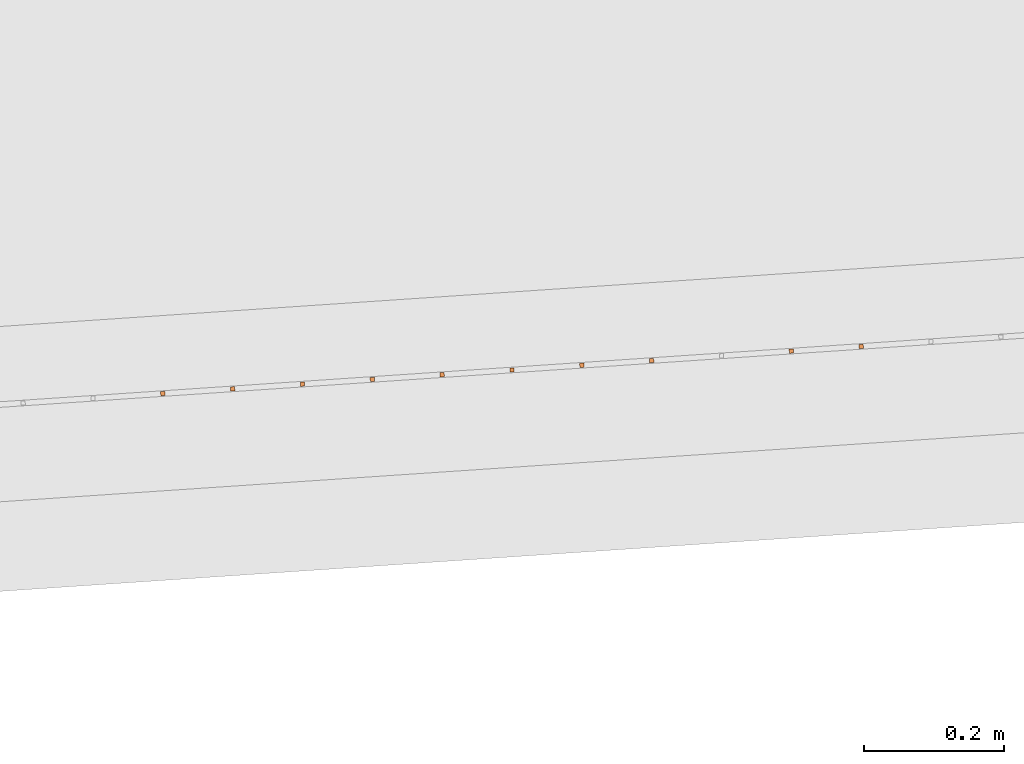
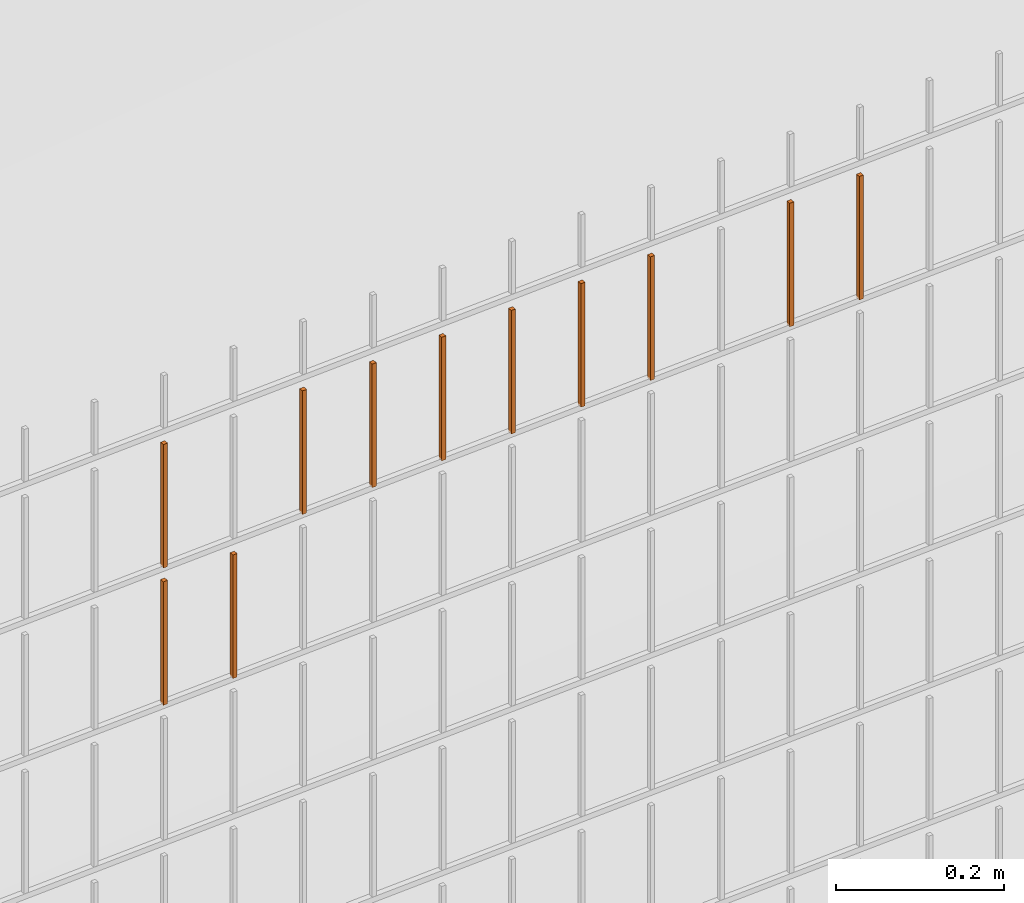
# One storey, part 192 of 1809: 11 proxies, 1 element without a shape of its own.
"""IFC2X3 building model written with IfcOpenShell, lengths in millimetres."""

from ifc_helpers import new_model, entity, si_unit, converted_unit, derived_unit, money_unit, direction, frame, origin_with_axes, place, context, subcontext, project, spatial, faceted_brep, source, transform, mapped, material, type_object, element, aggregate, save


model = new_model("IFC2X3")

# Units and contexts
model_context = context("Model", 3, precision=0.01, world=origin_with_axes(), true_north=direction((0.0, 1.0)))
body_context = subcontext(model_context, "Body", "Model", "MODEL_VIEW")
ifc_project = project(units=[si_unit("LENGTHUNIT", "METRE", prefix="MILLI"), si_unit("AREAUNIT", "SQUARE_METRE"), si_unit("VOLUMEUNIT", "CUBIC_METRE"), converted_unit("PLANEANGLEUNIT", "DEGREE", entity("IfcPlaneAngleMeasure", 0.0174532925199), si_unit("PLANEANGLEUNIT", "RADIAN"), dimensions=[0, 0, 0, 0, 0, 0, 0]), si_unit("SOLIDANGLEUNIT", "STERADIAN"), money_unit("EUR"), converted_unit("TIMEUNIT", "Year", entity("IfcTimeMeasure", 31556926.0), si_unit("TIMEUNIT", "SECOND"), dimensions=[0, 0, 1, 0, 0, 0, 0]), si_unit("MASSUNIT", "GRAM", prefix="KILO"), si_unit("THERMODYNAMICTEMPERATUREUNIT", "DEGREE_CELSIUS"), si_unit("LUMINOUSINTENSITYUNIT", "LUMEN"), si_unit("ENERGYUNIT", "JOULE", prefix="MEGA"), derived_unit("THERMALCONDUCTANCEUNIT", [(si_unit("POWERUNIT", "WATT"), 1), (si_unit("LENGTHUNIT", "METRE"), -1), (si_unit("THERMODYNAMICTEMPERATUREUNIT", "KELVIN"), -1)]), derived_unit("SPECIFICHEATCAPACITYUNIT", [(si_unit("ENERGYUNIT", "JOULE"), 1), (si_unit("MASSUNIT", "GRAM", prefix="KILO"), -1), (si_unit("THERMODYNAMICTEMPERATUREUNIT", "KELVIN"), -1)]), derived_unit("MASSDENSITYUNIT", [(si_unit("MASSUNIT", "GRAM", prefix="KILO"), 1), (si_unit("VOLUMEUNIT", "CUBIC_METRE"), -1)])], contexts=[model_context])

# Site, building, storey
site_placement = place(None, origin_with_axes())
site = spatial("IfcSite", under=ifc_project, at=site_placement, Name="Politse- ja Piirivalveameti ning Päästeameti ühishoone", CompositionType="ELEMENT")
building_placement = place(site_placement, origin_with_axes())
building = spatial("IfcBuilding", under=site, at=building_placement, Name="Politse- ja Piirivalveameti ning Päästeameti ühishoone", CompositionType="ELEMENT")
storey_placement = place(building_placement, origin_with_axes())
storey = spatial("IfcBuildingStorey", under=building, at=storey_placement, Name="Esimene korrus", CompositionType="ELEMENT", Elevation=0.0)

# Proxies
building_element_proxy_type_1 = type_object("IfcBuildingElementProxyType", Name="Railing Type", PredefinedType="NOTDEFINED")
proxy_1_placement = place(storey_placement, frame((89252.001212, -29183.4766571, 203.661247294), z_axis=(0.0, 0.0, 1.0), x_axis=(1.0, 0.0, 0.0)))
proxy_1 = element("IfcBuildingElementProxy", 1, at=proxy_1_placement, inside=storey, type_object=building_element_proxy_type_1, Name="PIIRDEAED")
ifc_material = material(Name="ET-03_Raud")
building_element_proxy_type_2 = type_object("IfcBuildingElementProxyType", Name="IfcBuildingElementProxy", PredefinedType="NOTDEFINED")
shared_shape_1 = source(origin_with_axes(), body_context, "Body", "Brep", [
    faceted_brep([(3.0, 3.0, -0.000752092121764), (-3.0, 3.0, -0.000752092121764), (-3.0, 3.0, 179.99926046), (3.0, 3.0, 179.99926046), (3.0, -3.0, 0.000752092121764), (-3.0, -3.0, 0.000752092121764), (-3.0, -3.0, 180.000764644), (3.0, -3.0, 180.000764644)], [[[0, 1, 2, 3]], [[0, 4, 5, 1]], [[1, 5, 6, 2]], [[3, 2, 6, 7]], [[4, 0, 3, 7]], [[5, 4, 7, 6]]]),
])
proxy_2_placement = place(proxy_1_placement, frame((-68570.4399222, -21929.4492028, 1810.00478532), z_axis=(0.0, 0.0, 1.0), x_axis=(1.0, 0.0, 0.0)))
proxy_2 = element("IfcBuildingElementProxy", 2, at=proxy_2_placement, type_object=building_element_proxy_type_2, material=ifc_material, Name="BALUSTER - 001", context=body_context, shape_type="MappedRepresentation", body=[
    mapped(shared_shape_1, transform((0.0, 0.0, 0.0), x_axis=(-0.0673926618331, 0.997726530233, 0.0), y_axis=(-0.997726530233, -0.0673926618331, 0.0), z_axis=(0.0, 0.0, 1.0))),
])
shared_shape_2 = source(origin_with_axes(), body_context, "Body", "Brep", [
    faceted_brep([(3.0, 3.0, -0.000752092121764), (-3.0, 3.0, -0.000752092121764), (-3.0, 3.0, 179.99926046), (3.0, 3.0, 179.99926046), (3.0, -3.0, 0.000752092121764), (-3.0, -3.0, 0.000752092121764), (-3.0, -3.0, 180.000764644), (3.0, -3.0, 180.000764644)], [[[0, 1, 2, 3]], [[0, 4, 5, 1]], [[1, 5, 6, 2]], [[3, 2, 6, 7]], [[4, 0, 3, 7]], [[5, 4, 7, 6]]]),
])
proxy_3_placement = place(proxy_1_placement, frame((-69169.0758403, -21969.8847999, 1809.85436689), z_axis=(0.0, 0.0, 1.0), x_axis=(1.0, 0.0, 0.0)))
proxy_3 = element("IfcBuildingElementProxy", 3, at=proxy_3_placement, type_object=building_element_proxy_type_2, material=ifc_material, Name="BALUSTER - 001", context=body_context, shape_type="MappedRepresentation", body=[
    mapped(shared_shape_2, transform((0.0, 0.0, 0.0), x_axis=(-0.0673926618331, 0.997726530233, 0.0), y_axis=(-0.997726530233, -0.0673926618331, 0.0), z_axis=(0.0, 0.0, 1.0))),
])
shared_shape_3 = source(origin_with_axes(), body_context, "Body", "Brep", [
    faceted_brep([(3.0, 3.0, -0.000752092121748), (-3.0, 3.0, -0.00075209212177), (-3.0, 3.0, 179.99926046), (3.0, 3.0, 179.99926046), (3.0, -3.0, 0.00075209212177), (-3.0, -3.0, 0.000752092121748), (-3.0, -3.0, 180.000764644), (3.0, -3.0, 180.000764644)], [[[0, 1, 2, 3]], [[0, 4, 5, 1]], [[1, 5, 6, 2]], [[3, 2, 6, 7]], [[4, 0, 3, 7]], [[5, 4, 7, 6]]]),
])
proxy_4_placement = place(proxy_1_placement, frame((-68969.5305343, -21956.4062676, 1809.90450637), z_axis=(0.0, 0.0, 1.0), x_axis=(1.0, 0.0, 0.0)))
proxy_4 = element("IfcBuildingElementProxy", 4, at=proxy_4_placement, type_object=building_element_proxy_type_2, material=ifc_material, Name="BALUSTER - 001", context=body_context, shape_type="MappedRepresentation", body=[
    mapped(shared_shape_3, transform((0.0, 0.0, 0.0), x_axis=(-0.0673926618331, 0.997726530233, 0.0), y_axis=(-0.997726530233, -0.0673926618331, 0.0), z_axis=(0.0, 0.0, 1.0))),
])
shared_shape_4 = source(origin_with_axes(), body_context, "Body", "Brep", [
    faceted_brep([(3.0, 3.0, -0.000752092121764), (-3.0, 3.0, -0.000752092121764), (-3.0, 3.0, 179.99926046), (3.0, 3.0, 179.99926046), (3.0, -3.0, 0.000752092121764), (-3.0, -3.0, 0.000752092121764), (-3.0, -3.0, 180.000764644), (3.0, -3.0, 180.000764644)], [[[0, 1, 2, 3]], [[0, 4, 5, 1]], [[1, 5, 6, 2]], [[3, 2, 6, 7]], [[4, 0, 3, 7]], [[5, 4, 7, 6]]]),
])
proxy_5_placement = place(proxy_1_placement, frame((-68769.9852282, -21942.9277352, 1809.95464584), z_axis=(0.0, 0.0, 1.0), x_axis=(1.0, 0.0, 0.0)))
proxy_5 = element("IfcBuildingElementProxy", 5, at=proxy_5_placement, type_object=building_element_proxy_type_2, material=ifc_material, Name="BALUSTER - 001", context=body_context, shape_type="MappedRepresentation", body=[
    mapped(shared_shape_4, transform((0.0, 0.0, 0.0), x_axis=(-0.0673926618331, 0.997726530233, 0.0), y_axis=(-0.997726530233, -0.0673926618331, 0.0), z_axis=(0.0, 0.0, 1.0))),
])
shared_shape_5 = source(origin_with_axes(), body_context, "Body", "Brep", [
    faceted_brep([(3.0, 3.0, -0.000752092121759), (-3.0, 3.0, -0.000752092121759), (-3.0, 3.0, 179.99926046), (3.0, 3.0, 179.99926046), (3.0, -3.0, 0.000752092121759), (-3.0, -3.0, 0.000752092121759), (-3.0, -3.0, 180.000764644), (3.0, -3.0, 180.000764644)], [[[0, 1, 2, 3]], [[0, 4, 5, 1]], [[1, 5, 6, 2]], [[3, 2, 6, 7]], [[4, 0, 3, 7]], [[5, 4, 7, 6]]]),
])
proxy_6_placement = place(proxy_1_placement, frame((-68271.1219631, -21909.2314043, 1810.07999453), z_axis=(0.0, 0.0, 1.0), x_axis=(1.0, 0.0, 0.0)))
proxy_6 = element("IfcBuildingElementProxy", 6, at=proxy_6_placement, type_object=building_element_proxy_type_2, material=ifc_material, Name="BALUSTER - 001", context=body_context, shape_type="MappedRepresentation", body=[
    mapped(shared_shape_5, transform((0.0, 0.0, 0.0), x_axis=(-0.0673926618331, 0.997726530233, 0.0), y_axis=(-0.997726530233, -0.0673926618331, 0.0), z_axis=(0.0, 0.0, 1.0))),
])
proxy_7_placement = place(proxy_1_placement, frame((-68869.7578813, -21949.6670014, 1809.92957611), z_axis=(0.0, 0.0, 1.0), x_axis=(1.0, 0.0, 0.0)))
proxy_7 = element("IfcBuildingElementProxy", 7, at=proxy_7_placement, type_object=building_element_proxy_type_2, material=ifc_material, Name="BALUSTER - 001", context=body_context, shape_type="MappedRepresentation", body=[
    mapped(shared_shape_5, transform((0.0, 0.0, 0.0), x_axis=(-0.0673926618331, 0.997726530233, 0.0), y_axis=(-0.997726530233, -0.0673926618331, 0.0), z_axis=(0.0, 0.0, 1.0))),
])
shared_shape_6 = source(origin_with_axes(), body_context, "Body", "Brep", [
    faceted_brep([(3.0, 3.0, -0.000752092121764), (-3.0, 3.0, -0.000752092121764), (-3.0, 3.0, 179.99926046), (3.0, 3.0, 179.99926046), (3.0, -3.0, 0.000752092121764), (-3.0, -3.0, 0.000752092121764), (-3.0, -3.0, 180.000764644), (3.0, -3.0, 180.000764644)], [[[0, 1, 2, 3]], [[0, 4, 5, 1]], [[1, 5, 6, 2]], [[3, 2, 6, 7]], [[4, 0, 3, 7]], [[5, 4, 7, 6]]]),
])
proxy_8_placement = place(proxy_1_placement, frame((-69169.0758403, -21969.8847999, 1609.85436689), z_axis=(0.0, 0.0, 1.0), x_axis=(1.0, 0.0, 0.0)))
proxy_8 = element("IfcBuildingElementProxy", 8, at=proxy_8_placement, type_object=building_element_proxy_type_2, material=ifc_material, Name="BALUSTER - 001", context=body_context, shape_type="MappedRepresentation", body=[
    mapped(shared_shape_6, transform((0.0, 0.0, 0.0), x_axis=(-0.0673926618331, 0.997726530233, 0.0), y_axis=(-0.997726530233, -0.0673926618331, 0.0), z_axis=(0.0, 0.0, 1.0))),
])
shared_shape_7 = source(origin_with_axes(), body_context, "Body", "Brep", [
    faceted_brep([(3.0, 3.0, -0.000752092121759), (-3.0, 3.0, -0.000752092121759), (-3.0, 3.0, 179.99926046), (3.0, 3.0, 179.99926046), (3.0, -3.0, 0.000752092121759), (-3.0, -3.0, 0.000752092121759), (-3.0, -3.0, 180.000764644), (3.0, -3.0, 180.000764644)], [[[0, 1, 2, 3]], [[0, 4, 5, 1]], [[1, 5, 6, 2]], [[3, 2, 6, 7]], [[4, 0, 3, 7]], [[5, 4, 7, 6]]]),
])
proxy_9_placement = place(proxy_1_placement, frame((-68470.6672692, -21922.7099367, 1810.02985506), z_axis=(0.0, 0.0, 1.0), x_axis=(1.0, 0.0, 0.0)))
proxy_9 = element("IfcBuildingElementProxy", 9, at=proxy_9_placement, type_object=building_element_proxy_type_2, material=ifc_material, Name="BALUSTER - 001", context=body_context, shape_type="MappedRepresentation", body=[
    mapped(shared_shape_7, transform((0.0, 0.0, 0.0), x_axis=(-0.0673926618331, 0.997726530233, 0.0), y_axis=(-0.997726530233, -0.0673926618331, 0.0), z_axis=(0.0, 0.0, 1.0))),
])
shared_shape_8 = source(origin_with_axes(), body_context, "Body", "Brep", [
    faceted_brep([(3.0, 3.0, -0.000752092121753), (-3.0, 3.0, -0.000752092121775), (-3.0, 3.0, 179.99926046), (3.0, 3.0, 179.99926046), (3.0, -3.0, 0.000752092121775), (-3.0, -3.0, 0.000752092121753), (-3.0, -3.0, 180.000764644), (3.0, -3.0, 180.000764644)], [[[0, 1, 2, 3]], [[0, 4, 5, 1]], [[1, 5, 6, 2]], [[3, 2, 6, 7]], [[4, 0, 3, 7]], [[5, 4, 7, 6]]]),
])
proxy_10_placement = place(proxy_1_placement, frame((-68171.3493101, -21902.4921381, 1810.10506427), z_axis=(0.0, 0.0, 1.0), x_axis=(1.0, 0.0, 0.0)))
proxy_10 = element("IfcBuildingElementProxy", 10, at=proxy_10_placement, type_object=building_element_proxy_type_2, material=ifc_material, Name="BALUSTER - 001", context=body_context, shape_type="MappedRepresentation", body=[
    mapped(shared_shape_8, transform((0.0, 0.0, 0.0), x_axis=(-0.0673926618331, 0.997726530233, 0.0), y_axis=(-0.997726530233, -0.0673926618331, 0.0), z_axis=(0.0, 0.0, 1.0))),
])
shared_shape_9 = source(origin_with_axes(), body_context, "Body", "Brep", [
    faceted_brep([(3.0, 3.0, -0.000752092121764), (-3.0, 3.0, -0.000752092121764), (-3.0, 3.0, 179.99926046), (3.0, 3.0, 179.99926046), (3.0, -3.0, 0.000752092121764), (-3.0, -3.0, 0.000752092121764), (-3.0, -3.0, 180.000764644), (3.0, -3.0, 180.000764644)], [[[0, 1, 2, 3]], [[0, 4, 5, 1]], [[1, 5, 6, 2]], [[3, 2, 6, 7]], [[4, 0, 3, 7]], [[5, 4, 7, 6]]]),
])
proxy_11_placement = place(proxy_1_placement, frame((-68670.2125752, -21936.188469, 1809.97971558), z_axis=(0.0, 0.0, 1.0), x_axis=(1.0, 0.0, 0.0)))
proxy_11 = element("IfcBuildingElementProxy", 11, at=proxy_11_placement, type_object=building_element_proxy_type_2, material=ifc_material, Name="BALUSTER - 001", context=body_context, shape_type="MappedRepresentation", body=[
    mapped(shared_shape_9, transform((0.0, 0.0, 0.0), x_axis=(-0.0673926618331, 0.997726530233, 0.0), y_axis=(-0.997726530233, -0.0673926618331, 0.0), z_axis=(0.0, 0.0, 1.0))),
])
shared_shape_10 = source(origin_with_axes(), body_context, "Body", "Brep", [
    faceted_brep([(3.0, 3.0, -0.000752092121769), (-3.0, 3.0, -0.000752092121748), (-3.0, 3.0, 179.99926046), (3.0, 3.0, 179.99926046), (3.0, -3.0, 0.000752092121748), (-3.0, -3.0, 0.000752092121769), (-3.0, -3.0, 180.000764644), (3.0, -3.0, 180.000764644)], [[[0, 1, 2, 3]], [[0, 4, 5, 1]], [[1, 5, 6, 2]], [[3, 2, 6, 7]], [[4, 0, 3, 7]], [[5, 4, 7, 6]]]),
])
proxy_12_placement = place(proxy_1_placement, frame((-69069.3031873, -21963.1455338, 1609.87943663), z_axis=(0.0, 0.0, 1.0), x_axis=(1.0, 0.0, 0.0)))
proxy_12 = element("IfcBuildingElementProxy", 12, at=proxy_12_placement, type_object=building_element_proxy_type_2, material=ifc_material, Name="BALUSTER - 001", context=body_context, shape_type="MappedRepresentation", body=[
    mapped(shared_shape_10, transform((0.0, 0.0, 0.0), x_axis=(-0.0673926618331, 0.997726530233, 0.0), y_axis=(-0.997726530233, -0.0673926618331, 0.0), z_axis=(0.0, 0.0, 1.0))),
])
aggregate(proxy_1, [proxy_12, proxy_8, proxy_10, proxy_6, proxy_9, proxy_2, proxy_11, proxy_5, proxy_7, proxy_4, proxy_3])

save(model, "model.ifc")
